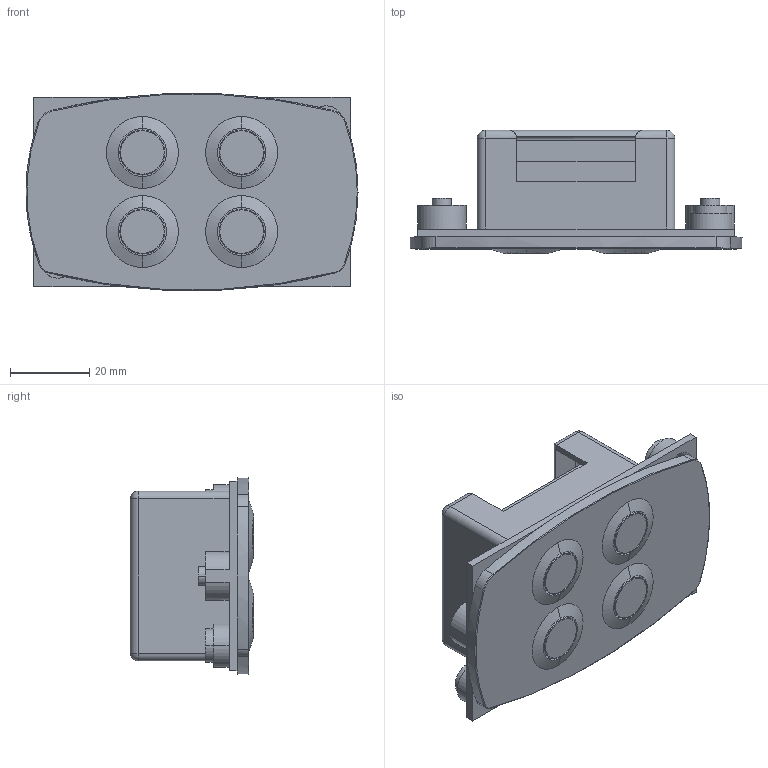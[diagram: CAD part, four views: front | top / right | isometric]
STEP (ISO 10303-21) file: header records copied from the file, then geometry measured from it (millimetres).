
FILE_DESCRIPTION((''),'2;1');
FILE_NAME('Z5-1NEW','2016-06-06T',('lily'),(''),'PRO/ENGINEER BY PARAMETRIC TECHNOLOGY CORPORATION, 2014200','PRO/ENGINEER BY PARAMETRIC TECHNOLOGY CORPORATION, 2014200','');
FILE_SCHEMA(('CONFIG_CONTROL_DESIGN'));
Length unit declared in the file: metre
Products named in the file (1): Z5-1NEW
Bounding box: 84 x 31.2 x 49.78 mm (x, y, z)
Volume: 48078.6 mm3; surface area: 29179.8 mm2
Topology: 1 solids, 7 shells, 262 faces, 615 edges, 392 vertices
Faces by surface type: cylinder 125, plane 88, torus 35, cone 8, sphere 6
Entity records: 7816 total; most frequent: CARTESIAN_POINT 1469, DIRECTION 1452, ORIENTED_EDGE 1218, EDGE_CURVE 609, AXIS2_PLACEMENT_3D 605, VERTEX_POINT 392, CIRCLE 343, EDGE_LOOP 319
